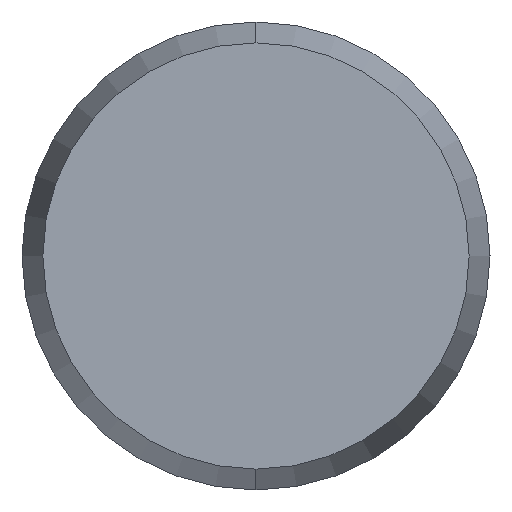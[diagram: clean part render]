
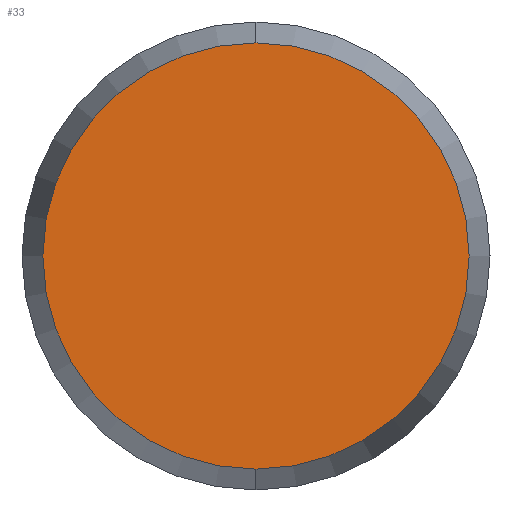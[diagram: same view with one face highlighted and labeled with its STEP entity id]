
A CAD part, left-side view. The second image highlights one B-rep face of the part: STEP entity #33.
In plain terms, the highlighted planar face has unit normal (-1, 0, 0).
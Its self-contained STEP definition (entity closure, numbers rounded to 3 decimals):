
#33 = ADVANCED_FACE ( 'NONE', ( #106 ), #114, .F. ) ;
#39 = EDGE_CURVE ( 'NONE', #50, #49, #133, .T. ) ;
#41 = EDGE_LOOP ( 'NONE', ( #57, #54 ) ) ;
#48 = EDGE_CURVE ( 'NONE', #49, #50, #136, .T. ) ;
#49 = VERTEX_POINT ( 'NONE', #146 ) ;
#50 = VERTEX_POINT ( 'NONE', #144 ) ;
#54 = ORIENTED_EDGE ( 'NONE', *, *, #39, .F. ) ;
#57 = ORIENTED_EDGE ( 'NONE', *, *, #48, .F. ) ;
#100 = DIRECTION ( 'NONE',  ( 0., 0., -1. ) ) ;
#102 = DIRECTION ( 'NONE',  ( 0., 0., -1. ) ) ;
#103 = DIRECTION ( 'NONE',  ( 1., 0., 0. ) ) ;
#104 = CARTESIAN_POINT ( 'NONE',  ( -18., 0., 0. ) ) ;
#106 = FACE_OUTER_BOUND ( 'NONE', #41, .T. ) ;
#113 = AXIS2_PLACEMENT_3D ( 'NONE', #104, #103, #102 ) ;
#114 = PLANE ( 'NONE',  #113 ) ;
#125 = CARTESIAN_POINT ( 'NONE',  ( -18., 0., 0. ) ) ;
#126 = AXIS2_PLACEMENT_3D ( 'NONE', #125, #132, #134 ) ;
#132 = DIRECTION ( 'NONE',  ( 1., 0., 0. ) ) ;
#133 = CIRCLE ( 'NONE', #126, 1.366 ) ;
#134 = DIRECTION ( 'NONE',  ( 0., 0., -1. ) ) ;
#135 = AXIS2_PLACEMENT_3D ( 'NONE', #138, #137, #100 ) ;
#136 = CIRCLE ( 'NONE', #135, 1.366 ) ;
#137 = DIRECTION ( 'NONE',  ( 1., 0., 0. ) ) ;
#138 = CARTESIAN_POINT ( 'NONE',  ( -18., 0., 0. ) ) ;
#144 = CARTESIAN_POINT ( 'NONE',  ( -18., 0., -1.366 ) ) ;
#146 = CARTESIAN_POINT ( 'NONE',  ( -18., 0., 1.366 ) ) ;
